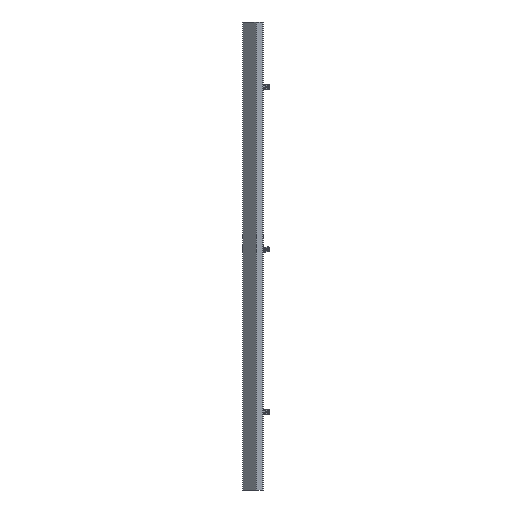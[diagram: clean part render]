
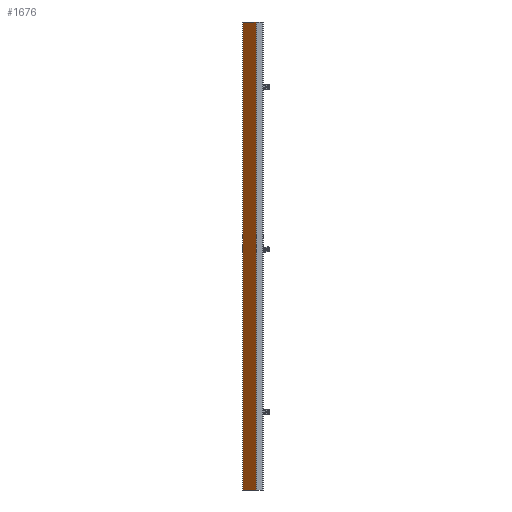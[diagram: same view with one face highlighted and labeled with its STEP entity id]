
A CAD part, left-side view. The second image highlights one B-rep face of the part: STEP entity #1676.
In plain terms, the highlighted planar face has unit normal (-0.707, 0.707, 0).
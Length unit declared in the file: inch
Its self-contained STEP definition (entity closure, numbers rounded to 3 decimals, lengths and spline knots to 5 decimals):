
#61 = CARTESIAN_POINT ( 'NONE',  ( -0.30607, 1.03107, 36. ) ) ;
#150 = EDGE_CURVE ( 'NONE', #5059, #4787, #1333, .T. ) ;
#246 = VECTOR ( 'NONE', #2208, 39.37008 ) ;
#499 = VECTOR ( 'NONE', #4518, 39.37008 ) ;
#1185 = ORIENTED_EDGE ( 'NONE', *, *, #1283, .F. ) ;
#1272 = LINE ( 'NONE', #3118, #246 ) ;
#1283 = EDGE_CURVE ( 'NONE', #1880, #5059, #1598, .T. ) ;
#1333 = LINE ( 'NONE', #2658, #499 ) ;
#1354 = FACE_OUTER_BOUND ( 'NONE', #3148, .T. ) ;
#1387 = ORIENTED_EDGE ( 'NONE', *, *, #150, .F. ) ;
#1417 = EDGE_CURVE ( 'NONE', #4787, #1635, #1272, .T. ) ;
#1598 = LINE ( 'NONE', #3469, #2174 ) ;
#1635 = VERTEX_POINT ( 'NONE', #61 ) ;
#1644 = CARTESIAN_POINT ( 'NONE',  ( -0.30607, 1.03107, -36. ) ) ;
#1676 = ADVANCED_FACE ( 'NONE', ( #1354 ), #3646, .T. ) ;
#1838 = DIRECTION ( 'NONE',  ( -0.707, -0.707, 0. ) ) ;
#1880 = VERTEX_POINT ( 'NONE', #1644 ) ;
#1963 = DIRECTION ( 'NONE',  ( 0., 0., 1. ) ) ;
#2174 = VECTOR ( 'NONE', #2999, 39.37008 ) ;
#2208 = DIRECTION ( 'NONE',  ( -0.707, -0.707, 0. ) ) ;
#2354 = CARTESIAN_POINT ( 'NONE',  ( 1.77132, 3.10845, 36. ) ) ;
#2658 = CARTESIAN_POINT ( 'NONE',  ( 1.77132, 3.10845, 36. ) ) ;
#2716 = VECTOR ( 'NONE', #1963, 39.37008 ) ;
#2786 = ORIENTED_EDGE ( 'NONE', *, *, #1417, .F. ) ;
#2802 = DIRECTION ( 'NONE',  ( -0.707, 0.707, 0. ) ) ;
#2845 = AXIS2_PLACEMENT_3D ( 'NONE', #5944, #2802, #1838 ) ;
#2999 = DIRECTION ( 'NONE',  ( 0.707, 0.707, 0. ) ) ;
#3118 = CARTESIAN_POINT ( 'NONE',  ( -0.32803, 1.0091, 36. ) ) ;
#3148 = EDGE_LOOP ( 'NONE', ( #1185, #5533, #2786, #1387 ) ) ;
#3365 = CARTESIAN_POINT ( 'NONE',  ( -0.30607, 1.03107, 0. ) ) ;
#3469 = CARTESIAN_POINT ( 'NONE',  ( 1.77132, 3.10845, -36. ) ) ;
#3646 = PLANE ( 'NONE',  #2845 ) ;
#4086 = EDGE_CURVE ( 'NONE', #1880, #1635, #5620, .T. ) ;
#4518 = DIRECTION ( 'NONE',  ( 0., 0., 1. ) ) ;
#4787 = VERTEX_POINT ( 'NONE', #2354 ) ;
#5011 = CARTESIAN_POINT ( 'NONE',  ( 1.77132, 3.10845, -36. ) ) ;
#5059 = VERTEX_POINT ( 'NONE', #5011 ) ;
#5533 = ORIENTED_EDGE ( 'NONE', *, *, #4086, .T. ) ;
#5620 = LINE ( 'NONE', #3365, #2716 ) ;
#5944 = CARTESIAN_POINT ( 'NONE',  ( -0.65303, 0.6841, 0. ) ) ;
